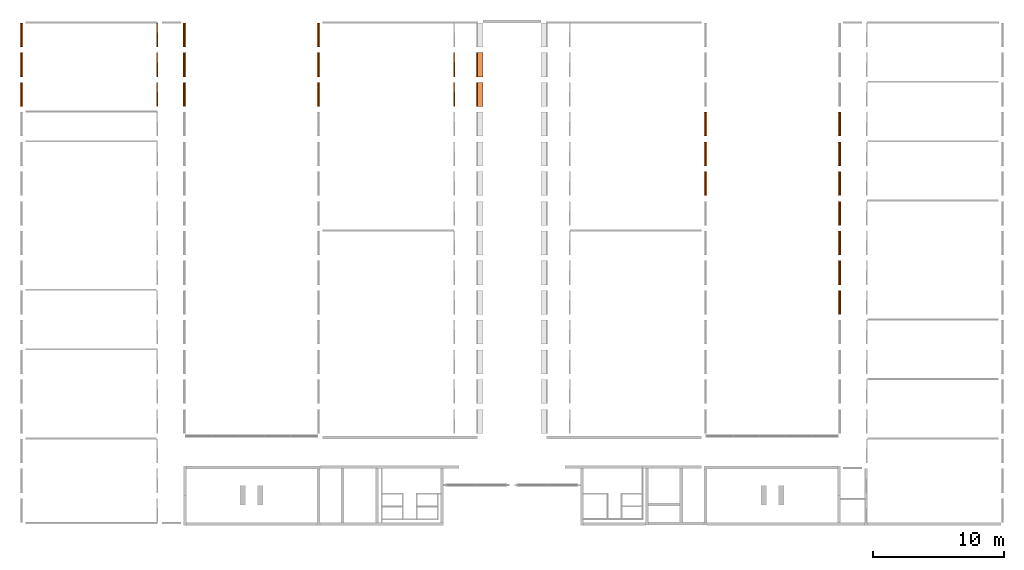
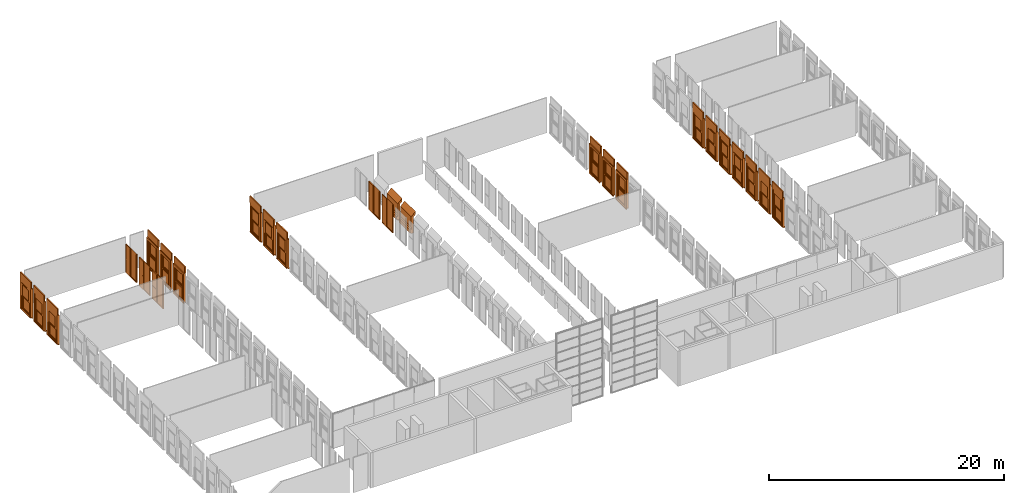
# One storey, part 14 of 16: 26 proxies.
"""IFC2X3 building model written with IfcOpenShell, lengths in millimetres."""

from ifc_helpers import new_model, entity, si_unit, converted_unit, derived_unit, direction, frame, frame_2d, origin, origin_2d_with_axis, place, context, subcontext, project, spatial, polyline, rectangle, outline, extrude, source, transform, mapped, material, material_list, type_object, type_shapes, element, save


model = new_model("IFC2X3")

# Units and contexts
model_context = context("Model", 3, precision=0.01, world=origin(), true_north=direction((6.12303176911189e-17, 1.0)))
body_context = subcontext(model_context, "Body", "Model", "MODEL_VIEW")
ifc_project = project(units=[si_unit("LENGTHUNIT", "METRE", prefix="MILLI"), si_unit("AREAUNIT", "SQUARE_METRE"), si_unit("VOLUMEUNIT", "CUBIC_METRE"), converted_unit("PLANEANGLEUNIT", "DEGREE", entity("IfcRatioMeasure", 0.0174532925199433), si_unit("PLANEANGLEUNIT", "RADIAN"), dimensions=[0, 0, 0, 0, 0, 0, 0]), si_unit("MASSUNIT", "GRAM", prefix="KILO"), derived_unit("MASSDENSITYUNIT", [(si_unit("MASSUNIT", "GRAM", prefix="KILO"), 1), (si_unit("LENGTHUNIT", "METRE"), -3)]), derived_unit("MOMENTOFINERTIAUNIT", [(si_unit("LENGTHUNIT", "METRE"), 4)]), si_unit("TIMEUNIT", "SECOND"), si_unit("FREQUENCYUNIT", "HERTZ"), si_unit("THERMODYNAMICTEMPERATUREUNIT", "DEGREE_CELSIUS"), derived_unit("THERMALTRANSMITTANCEUNIT", [(si_unit("MASSUNIT", "GRAM", prefix="KILO"), 1), (si_unit("THERMODYNAMICTEMPERATUREUNIT", "KELVIN"), -1), (si_unit("TIMEUNIT", "SECOND"), -3)]), derived_unit("VOLUMETRICFLOWRATEUNIT", [(si_unit("LENGTHUNIT", "METRE"), 3), (si_unit("TIMEUNIT", "SECOND"), -1)]), si_unit("ELECTRICCURRENTUNIT", "AMPERE"), si_unit("ELECTRICVOLTAGEUNIT", "VOLT"), si_unit("POWERUNIT", "WATT"), si_unit("FORCEUNIT", "NEWTON", prefix="KILO"), si_unit("ILLUMINANCEUNIT", "LUX"), si_unit("LUMINOUSFLUXUNIT", "LUMEN"), si_unit("LUMINOUSINTENSITYUNIT", "CANDELA"), derived_unit("USERDEFINED", [(si_unit("MASSUNIT", "GRAM", prefix="KILO"), -1), (si_unit("LENGTHUNIT", "METRE"), -2), (si_unit("TIMEUNIT", "SECOND"), 3), (si_unit("LUMINOUSFLUXUNIT", "LUMEN"), 1)]), derived_unit("LINEARVELOCITYUNIT", [(si_unit("LENGTHUNIT", "METRE"), 1), (si_unit("TIMEUNIT", "SECOND"), -1)]), si_unit("PRESSUREUNIT", "PASCAL"), derived_unit("USERDEFINED", [(si_unit("LENGTHUNIT", "METRE"), -2), (si_unit("MASSUNIT", "GRAM", prefix="KILO"), 1), (si_unit("TIMEUNIT", "SECOND"), -2)]), derived_unit("LINEARFORCEUNIT", [(si_unit("MASSUNIT", "GRAM", prefix="KILO"), 1), (si_unit("LENGTHUNIT", "METRE"), 1), (si_unit("TIMEUNIT", "SECOND"), -2), (si_unit("LENGTHUNIT", "METRE"), -1)]), derived_unit("PLANARFORCEUNIT", [(si_unit("MASSUNIT", "GRAM", prefix="KILO"), 1), (si_unit("LENGTHUNIT", "METRE"), 1), (si_unit("TIMEUNIT", "SECOND"), -2), (si_unit("LENGTHUNIT", "METRE"), -2)])], contexts=[model_context])

# Site, building, storey
site_placement = place(None, frame((10627.5135316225, 21939.0796949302, 0.0)))
site = spatial("IfcSite", under=ifc_project, at=site_placement, Name="Default", CompositionType="ELEMENT")
building_placement = place(site_placement, origin())
building = spatial("IfcBuilding", under=site, at=building_placement, CompositionType="ELEMENT")
storey_placement = place(building_placement, frame((0.0, 0.0, 3660.0)))
storey = spatial("IfcBuildingStorey", under=building, at=storey_placement, Name="R+1", CompositionType="ELEMENT", Elevation=3660.0)

# Proxies
ifc_material_1 = material(Name="PVC, Flexible")
ifc_material_2 = material(Name="Glass")
ifc_material_list_1 = material_list([ifc_material_1, ifc_material_2])
building_element_proxy_type_1 = type_object("IfcBuildingElementProxyType", Name="FENETRE.dwg:Fenetre ext 296+70", PredefinedType="NOTDEFINED", material=ifc_material_1)
shared_shape_1 = source(origin(), body_context, "Body", "SweptSolid", [
    extrude(rectangle(XDim=1829.99999999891, YDim=112.500043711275, at=origin_2d_with_axis()), frame((-10.4189092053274, 56.2500218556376, 2960.0), z_axis=(0.0, 0.0, 1.0), x_axis=(-1.0, 0.0, 0.0)), (0.0, 0.0, 1.0), 700.0),
    extrude(outline(polyline([(-68.5678005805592, -14.3879872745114), (-72.4883397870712, -33.9999574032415), (-67.5853472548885, -34.9800922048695), (-63.9024543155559, -16.5569155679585), (44.3087537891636, -16.5569155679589), (54.1101018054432, 32.4730097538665), (40.6268723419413, 35.1683804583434), (40.1368049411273, 32.7168841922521), (51.168538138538, 30.5115808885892), (42.1928709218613, -14.3879872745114), (-68.5678005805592, -14.3879872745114)])), frame((-925.418909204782, 66.917049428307, -47.5499763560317), z_axis=(-1.0, 0.0, 0.0), x_axis=(0.0, 0.980598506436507, -0.196026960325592)), (0.0, 0.0, -1.0), 1829.99999999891),
    extrude(outline(polyline([(-64.667066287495, -56.2500218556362), (66.1666874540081, -56.2500218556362), (66.1666874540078, 56.2500218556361), (-67.6663086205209, 56.2500218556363), (-64.667066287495, -56.2500218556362)])), frame((-925.418909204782, -56.2500218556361, -63.833312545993), z_axis=(1.0, 0.0, 0.0), x_axis=(0.0, 0.0, -1.0)), (0.0, 0.0, 1.0), 1829.99999999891),
    extrude(outline(polyline([(-55.5555555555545, 97.0007159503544), (-55.5555555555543, -5.85738417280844), (-55.5555555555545, -95.357341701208), (-45.5555555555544, -95.3573417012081), (-45.5555555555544, -105.357341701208), (174.444444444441, -105.357341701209), (174.444444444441, 106.642659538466), (-45.5555555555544, 106.642659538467), (-45.5555555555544, 97.0007159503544), (-55.5555555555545, 97.0007159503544)])), frame((849.025535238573, 5.85738417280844, 0.0), z_axis=(0.0, 0.0, -1.0), x_axis=(-1.0, 0.0, 0.0)), (0.0, 0.0, -1.0), 2960.0),
    extrude(rectangle(XDim=199.499957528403, YDim=1369.99999999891, at=origin_2d_with_axis()), frame((-10.4189092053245, 0.250021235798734, 2730.0), z_axis=(0.0, 0.0, 1.0), x_axis=(0.0, 1.0, 0.0)), (0.0, 0.0, 1.0), 230.000000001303),
    extrude(outline(polyline([(-97.0007159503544, -55.5555555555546), (5.85738417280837, -55.5555555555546), (95.357341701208, -55.5555555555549), (95.357341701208, -45.5555555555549), (105.357341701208, -45.5555555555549), (105.357341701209, 174.44444444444), (-106.642659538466, 174.444444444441), (-106.642659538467, -45.5555555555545), (-97.0007159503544, -45.5555555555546), (-97.0007159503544, -55.5555555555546)])), frame((-869.863353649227, 5.85738417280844, 0.0), z_axis=(0.0, 0.0, 1.0), x_axis=(0.0, -1.0, 0.0)), (0.0, 0.0, 1.0), 2960.0),
    extrude(rectangle(XDim=1.0, YDim=1079.99999999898, at=origin_2d_with_axis()), frame((-10.4189092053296, -19.5, 130.0), z_axis=(0.0, 0.0, 1.0), x_axis=(0.0, 1.0, 0.0)), (0.0, 0.0, 1.0), 1120.00000000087),
    extrude(rectangle(XDim=1.0, YDim=1079.99999999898, at=frame_2d((-4.21884749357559e-15, 0.0), x_axis=(1.0, 0.0))), frame((-10.4189092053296, -30.5, 130.0), z_axis=(0.0, 0.0, 1.0), x_axis=(0.0, 1.0, 0.0)), (0.0, 0.0, 1.0), 1120.00000000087),
    extrude(rectangle(XDim=1.0, YDim=1079.99999999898, at=frame_2d((-4.21884749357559e-15, 0.0), x_axis=(1.0, 0.0))), frame((-10.4189092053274, 69.5, 1465.0), z_axis=(0.0, 0.0, 1.0), x_axis=(0.0, 1.0, 0.0)), (0.0, 0.0, 1.0), 1120.0),
    extrude(rectangle(XDim=0.999999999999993, YDim=1079.99999999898, at=frame_2d((-8.46545056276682e-15, 0.0), x_axis=(1.0, 0.0))), frame((-10.4189092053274, 80.5, 1465.0), z_axis=(0.0, 0.0, 1.0), x_axis=(0.0, 1.0, 0.0)), (0.0, 0.0, 1.0), 1120.00000000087),
    extrude(outline(polyline([(-685.0, -1365.0), (0.0, -1365.0), (685.0, -1365.0), (685.0, 1365.0), (0.0, 1365.0), (-685.0, 1365.0), (-685.0, -1365.0)]), holes=[polyline([(-640.0, -1320.0), (-640.0, -45.0), (0.0, -45.0), (640.0, -45.0), (640.0, -1320.0), (0.0, -1320.0), (-640.0, -1320.0)]), polyline([(-640.0, 40.0), (-640.0, 1315.0), (0.0, 1315.0), (640.0, 1315.0), (640.0, 40.0), (0.0, 40.0), (-640.0, 40.0)])]), frame((-10.4189092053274, 0.0, 1365.0), z_axis=(0.0, 1.0, 0.0), x_axis=(1.0, 0.0, 0.0)), (0.0, 0.0, 1.0), 50.0),
    extrude(outline(polyline([(-655.0, -667.500000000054), (655.0, -667.500000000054), (655.0, 667.500000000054), (-655.0, 667.500000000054), (-655.0, -667.500000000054)]), holes=[polyline([(-540.0, 552.500000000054), (540.0, 552.500000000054), (540.0, -567.500000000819), (-540.0, -567.500000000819), (-540.0, 552.500000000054)])]), frame((-10.4189092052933, -50.0, 697.500000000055), z_axis=(0.0, 1.0, 0.0), x_axis=(-1.0, 0.0, 0.0)), (0.0, 0.0, 1.0), 50.0),
    extrude(outline(polyline([(-655.0, -667.500000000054), (655.0, -667.500000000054), (655.0, 667.500000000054), (-655.0, 667.500000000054), (-655.0, -667.500000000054)]), holes=[polyline([(-540.0, 552.500000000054), (540.0, 552.500000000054), (540.0, -567.500000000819), (-540.0, -567.500000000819), (-540.0, 552.500000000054)])]), frame((-10.4189092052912, 50.0, 2032.50000000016), z_axis=(0.0, 1.0, 0.0), x_axis=(-1.0, 0.0, 0.0)), (0.0, 0.0, 1.0), 50.0),
])
type_shapes(building_element_proxy_type_1, [shared_shape_1])
proxy_1_placement = place(storey_placement, frame((-10728.9017825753, 15361.3392142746, 0.0), z_axis=(0.0, 0.0, 1.0), x_axis=(0.0, 1.0, 0.0)))
element("IfcBuildingElementProxy", 1, at=proxy_1_placement, inside=storey, type_object=building_element_proxy_type_1, material=ifc_material_list_1, Name="FENETRE.dwg:Fenetre ext 296+70", ObjectType="FENETRE.dwg:Fenetre ext 296+70", context=body_context, shape_type="MappedRepresentation", body=[
    mapped(shared_shape_1, transform((0.0, 0.0, 0.0), scale=1.0)),
])
ifc_material_list_2 = material_list([ifc_material_1, ifc_material_2])
proxy_2_placement = place(storey_placement, frame((-10728.9017825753, 13101.3392142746, 0.0), z_axis=(0.0, 0.0, 1.0), x_axis=(0.0, 1.0, 0.0)))
element("IfcBuildingElementProxy", 2, at=proxy_2_placement, inside=storey, type_object=building_element_proxy_type_1, material=ifc_material_list_2, Name="FENETRE.dwg:Fenetre ext 296+70", ObjectType="FENETRE.dwg:Fenetre ext 296+70", context=body_context, shape_type="MappedRepresentation", body=[
    mapped(shared_shape_1, transform((0.0, 0.0, 0.0), scale=1.0)),
])
ifc_material_list_3 = material_list([ifc_material_1, ifc_material_2])
proxy_3_placement = place(storey_placement, frame((-10728.9017825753, 10841.3392142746, 0.0), z_axis=(0.0, 0.0, 1.0), x_axis=(0.0, 1.0, 0.0)))
element("IfcBuildingElementProxy", 3, at=proxy_3_placement, inside=storey, type_object=building_element_proxy_type_1, material=ifc_material_list_3, Name="FENETRE.dwg:Fenetre ext 296+70", ObjectType="FENETRE.dwg:Fenetre ext 296+70", context=body_context, shape_type="MappedRepresentation", body=[
    mapped(shared_shape_1, transform((0.0, 0.0, 0.0), scale=1.0)),
])
ifc_material_list_4 = material_list([ifc_material_1, ifc_material_2])
proxy_4_placement = place(storey_placement, frame((11860.9034578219, 15361.3392142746, 0.0), z_axis=(0.0, 0.0, 1.0), x_axis=(0.0, 1.0, 0.0)))
element("IfcBuildingElementProxy", 4, at=proxy_4_placement, inside=storey, type_object=building_element_proxy_type_1, material=ifc_material_list_4, Name="FENETRE.dwg:Fenetre ext 296+70", ObjectType="FENETRE.dwg:Fenetre ext 296+70", context=body_context, shape_type="MappedRepresentation", body=[
    mapped(shared_shape_1, transform((0.0, 0.0, 0.0), scale=1.0)),
])
ifc_material_list_5 = material_list([ifc_material_1, ifc_material_2])
proxy_5_placement = place(storey_placement, frame((11860.9034578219, 13101.3392142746, 0.0), z_axis=(0.0, 0.0, 1.0), x_axis=(0.0, 1.0, 0.0)))
element("IfcBuildingElementProxy", 5, at=proxy_5_placement, inside=storey, type_object=building_element_proxy_type_1, material=ifc_material_list_5, Name="FENETRE.dwg:Fenetre ext 296+70", ObjectType="FENETRE.dwg:Fenetre ext 296+70", context=body_context, shape_type="MappedRepresentation", body=[
    mapped(shared_shape_1, transform((0.0, 0.0, 0.0), scale=1.0)),
])
ifc_material_list_6 = material_list([ifc_material_1, ifc_material_2])
proxy_6_placement = place(storey_placement, frame((11860.9034578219, 10841.3392142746, 0.0), z_axis=(0.0, 0.0, 1.0), x_axis=(0.0, 1.0, 0.0)))
element("IfcBuildingElementProxy", 6, at=proxy_6_placement, inside=storey, type_object=building_element_proxy_type_1, material=ifc_material_list_6, Name="FENETRE.dwg:Fenetre ext 296+70", ObjectType="FENETRE.dwg:Fenetre ext 296+70", context=body_context, shape_type="MappedRepresentation", body=[
    mapped(shared_shape_1, transform((0.0, 0.0, 0.0), scale=1.0)),
])
ifc_material_list_7 = material_list([ifc_material_1, ifc_material_2])
proxy_7_placement = place(storey_placement, frame((51469.9865120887, 8581.33921427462, 0.0), z_axis=(0.0, 0.0, 1.0), x_axis=(0.0, 1.0, 0.0)))
element("IfcBuildingElementProxy", 7, at=proxy_7_placement, inside=storey, type_object=building_element_proxy_type_1, material=ifc_material_list_7, Name="FENETRE.dwg:Fenetre ext 296+70", ObjectType="FENETRE.dwg:Fenetre ext 296+70", context=body_context, shape_type="MappedRepresentation", body=[
    mapped(shared_shape_1, transform((0.0, 0.0, 0.0), scale=1.0)),
])
ifc_material_list_8 = material_list([ifc_material_1, ifc_material_2])
proxy_8_placement = place(storey_placement, frame((51469.9865120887, 6321.33921427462, 0.0), z_axis=(0.0, 0.0, 1.0), x_axis=(0.0, 1.0, 0.0)))
element("IfcBuildingElementProxy", 8, at=proxy_8_placement, inside=storey, type_object=building_element_proxy_type_1, material=ifc_material_list_8, Name="FENETRE.dwg:Fenetre ext 296+70", ObjectType="FENETRE.dwg:Fenetre ext 296+70", context=body_context, shape_type="MappedRepresentation", body=[
    mapped(shared_shape_1, transform((0.0, 0.0, 0.0), scale=1.0)),
])
ifc_material_list_9 = material_list([ifc_material_1, ifc_material_2])
proxy_9_placement = place(storey_placement, frame((51469.9865120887, 4061.33921427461, 0.0), z_axis=(0.0, 0.0, 1.0), x_axis=(0.0, 1.0, 0.0)))
element("IfcBuildingElementProxy", 9, at=proxy_9_placement, inside=storey, type_object=building_element_proxy_type_1, material=ifc_material_list_9, Name="FENETRE.dwg:Fenetre ext 296+70", ObjectType="FENETRE.dwg:Fenetre ext 296+70", context=body_context, shape_type="MappedRepresentation", body=[
    mapped(shared_shape_1, transform((0.0, 0.0, 0.0), scale=1.0)),
])
ifc_material_list_10 = material_list([ifc_material_1, ifc_material_2])
proxy_10_placement = place(storey_placement, frame((51469.9865120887, 1801.33921427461, 0.0), z_axis=(0.0, 0.0, 1.0), x_axis=(0.0, 1.0, 0.0)))
element("IfcBuildingElementProxy", 10, at=proxy_10_placement, inside=storey, type_object=building_element_proxy_type_1, material=ifc_material_list_10, Name="FENETRE.dwg:Fenetre ext 296+70", ObjectType="FENETRE.dwg:Fenetre ext 296+70", context=body_context, shape_type="MappedRepresentation", body=[
    mapped(shared_shape_1, transform((0.0, 0.0, 0.0), scale=1.0)),
])
ifc_material_list_11 = material_list([ifc_material_1, ifc_material_2])
proxy_11_placement = place(storey_placement, frame((51469.9865120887, -458.660785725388, 0.0), z_axis=(0.0, 0.0, 1.0), x_axis=(0.0, 1.0, 0.0)))
element("IfcBuildingElementProxy", 11, at=proxy_11_placement, inside=storey, type_object=building_element_proxy_type_1, material=ifc_material_list_11, Name="FENETRE.dwg:Fenetre ext 296+70", ObjectType="FENETRE.dwg:Fenetre ext 296+70", context=body_context, shape_type="MappedRepresentation", body=[
    mapped(shared_shape_1, transform((0.0, 0.0, 0.0), scale=1.0)),
])
ifc_material_list_12 = material_list([ifc_material_1, ifc_material_2])
proxy_12_placement = place(storey_placement, frame((51469.9865120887, -2718.66078572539, 0.0), z_axis=(0.0, 0.0, 1.0), x_axis=(0.0, 1.0, 0.0)))
element("IfcBuildingElementProxy", 12, at=proxy_12_placement, inside=storey, type_object=building_element_proxy_type_1, material=ifc_material_list_12, Name="FENETRE.dwg:Fenetre ext 296+70", ObjectType="FENETRE.dwg:Fenetre ext 296+70", context=body_context, shape_type="MappedRepresentation", body=[
    mapped(shared_shape_1, transform((0.0, 0.0, 0.0), scale=1.0)),
])
ifc_material_list_13 = material_list([ifc_material_1, ifc_material_2])
proxy_13_placement = place(storey_placement, frame((51469.9865120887, -4978.66078572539, 0.0), z_axis=(0.0, 0.0, 1.0), x_axis=(0.0, 1.0, 0.0)))
element("IfcBuildingElementProxy", 13, at=proxy_13_placement, inside=storey, type_object=building_element_proxy_type_1, material=ifc_material_list_13, Name="FENETRE.dwg:Fenetre ext 296+70", ObjectType="FENETRE.dwg:Fenetre ext 296+70", context=body_context, shape_type="MappedRepresentation", body=[
    mapped(shared_shape_1, transform((0.0, 0.0, 0.0), scale=1.0)),
])
ifc_material_list_14 = material_list([ifc_material_1, ifc_material_2])
building_element_proxy_type_2 = type_object("IfcBuildingElementProxyType", Name="FENETRE.dwg:Fenetre ext 296+70", PredefinedType="NOTDEFINED", material=ifc_material_1)
shared_shape_2 = source(origin(), body_context, "Body", "SweptSolid", [
    extrude(rectangle(XDim=112.500043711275, YDim=1829.99999999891, at=origin_2d_with_axis()), frame((-10.4189092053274, -56.2500218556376, 2960.0), z_axis=(0.0, 0.0, 1.0), x_axis=(0.0, 1.0, 0.0)), (0.0, 0.0, 1.0), 700.0),
    extrude(outline(polyline([(27.5499763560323, -64.4170494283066), (47.5499763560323, -64.4170494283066), (47.5499763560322, -59.4170494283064), (28.7622905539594, -59.4170494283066), (7.54997635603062, 46.6946996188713), (-42.4500236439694, 46.6946996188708), (-42.4500236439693, 32.9446996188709), (-39.9500236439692, 32.9446996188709), (-39.9500236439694, 44.1946996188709), (5.83789859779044, 44.1946996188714), (27.5499763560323, -64.4170494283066)])), frame((-925.418909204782, -66.917049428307, -47.5499763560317), z_axis=(1.0, 0.0, 0.0), x_axis=(0.0, 0.0, 1.0)), (0.0, 0.0, 1.0), 1829.99999999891),
    extrude(outline(polyline([(-54.506636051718, -66.1431859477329), (58.0333803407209, -66.1431859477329), (54.4666704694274, 67.6422744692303), (-57.9934147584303, 64.6440974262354), (-54.506636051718, -66.1431859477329)])), frame((-925.418909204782, 56.2500218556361, -63.833312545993), z_axis=(1.0, 0.0, 0.0), x_axis=(0.0, -0.999644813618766, 0.0266504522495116)), (0.0, 0.0, 1.0), 1829.99999999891),
    extrude(outline(polyline([(-97.0007159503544, -55.5555555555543), (5.85738417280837, -55.5555555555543), (95.357341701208, -55.5555555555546), (95.357341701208, -45.5555555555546), (105.357341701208, -45.5555555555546), (105.357341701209, 174.444444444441), (-106.642659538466, 174.444444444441), (-106.642659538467, -45.5555555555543), (-97.0007159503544, -45.5555555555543), (-97.0007159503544, -55.5555555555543)])), frame((849.025535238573, -5.85738417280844, 0.0), z_axis=(0.0, 0.0, 1.0), x_axis=(0.0, 1.0, 0.0)), (0.0, 0.0, 1.0), 2960.0),
    extrude(rectangle(XDim=1369.99999999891, YDim=199.499957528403, at=origin_2d_with_axis()), frame((-10.4189092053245, -0.250021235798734, 2730.0), z_axis=(0.0, 0.0, 1.0), x_axis=(-1.0, 0.0, 0.0)), (0.0, 0.0, 1.0), 230.000000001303),
    extrude(outline(polyline([(-55.5555555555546, 97.0007159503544), (-55.5555555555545, -5.85738417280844), (-55.5555555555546, -95.357341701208), (-45.5555555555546, -95.3573417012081), (-45.5555555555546, -105.357341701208), (174.444444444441, -105.357341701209), (174.444444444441, 106.642659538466), (-45.5555555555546, 106.642659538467), (-45.5555555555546, 97.0007159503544), (-55.5555555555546, 97.0007159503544)])), frame((-869.863353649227, -5.85738417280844, 0.0), z_axis=(0.0, 0.0, -1.0), x_axis=(1.0, 0.0, 0.0)), (0.0, 0.0, -1.0), 2960.0),
    extrude(rectangle(XDim=1079.99999999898, YDim=1.0, at=origin_2d_with_axis()), frame((-10.4189092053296, 19.5, 130.0), z_axis=(0.0, 0.0, 1.0), x_axis=(-1.0, 0.0, 0.0)), (0.0, 0.0, 1.0), 1120.00000000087),
    extrude(rectangle(XDim=1079.99999999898, YDim=1.0, at=origin_2d_with_axis()), frame((-10.4189092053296, 30.5, 130.0), z_axis=(0.0, 0.0, 1.0), x_axis=(-1.0, 0.0, 0.0)), (0.0, 0.0, 1.0), 1120.00000000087),
    extrude(rectangle(XDim=1079.99999999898, YDim=1.0, at=frame_2d((0.0, 4.21884749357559e-15), x_axis=(1.0, 0.0))), frame((-10.4189092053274, -69.5, 1465.0), z_axis=(0.0, 0.0, 1.0), x_axis=(-1.0, 0.0, 0.0)), (0.0, 0.0, 1.0), 1120.0),
    extrude(rectangle(XDim=1079.99999999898, YDim=0.999999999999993, at=frame_2d((0.0, -8.46545056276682e-15), x_axis=(1.0, 0.0))), frame((-10.4189092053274, -80.5, 1465.0), z_axis=(0.0, 0.0, 1.0), x_axis=(-1.0, 0.0, 0.0)), (0.0, 0.0, 1.0), 1120.00000000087),
    extrude(outline(polyline([(-685.0, -1365.0), (0.0, -1365.0), (685.0, -1365.0), (685.0, 1365.0), (0.0, 1365.0), (-685.0, 1365.0), (-685.0, -1365.0)]), holes=[polyline([(-640.0, -1320.0), (-640.0, -45.0), (0.0, -45.0), (640.0, -45.0), (640.0, -1320.0), (0.0, -1320.0), (-640.0, -1320.0)]), polyline([(-640.0, 40.0), (-640.0, 1315.0), (0.0, 1315.0), (640.0, 1315.0), (640.0, 40.0), (0.0, 40.0), (-640.0, 40.0)])]), frame((-10.4189092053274, -50.0, 1365.0), z_axis=(0.0, 1.0, 0.0), x_axis=(1.0, 0.0, 0.0)), (0.0, 0.0, 1.0), 50.0),
    extrude(outline(polyline([(-655.0, -667.500000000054), (655.0, -667.500000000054), (655.0, 667.500000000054), (-655.0, 667.500000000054), (-655.0, -667.500000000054)]), holes=[polyline([(-540.0, 552.500000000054), (540.0, 552.500000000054), (540.0, -567.500000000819), (-540.0, -567.500000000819), (-540.0, 552.500000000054)])]), frame((-10.4189092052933, 0.0, 697.500000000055), z_axis=(0.0, 1.0, 0.0), x_axis=(-1.0, 0.0, 0.0)), (0.0, 0.0, 1.0), 50.0),
    extrude(outline(polyline([(-655.0, -667.500000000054), (655.0, -667.500000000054), (655.0, 667.500000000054), (-655.0, 667.500000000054), (-655.0, -667.500000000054)]), holes=[polyline([(-540.0, 552.500000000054), (540.0, 552.500000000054), (540.0, -567.500000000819), (-540.0, -567.500000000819), (-540.0, 552.500000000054)])]), frame((-10.4189092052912, -100.0, 2032.50000000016), z_axis=(0.0, 1.0, 0.0), x_axis=(-1.0, 0.0, 0.0)), (0.0, 0.0, 1.0), 50.0),
])
type_shapes(building_element_proxy_type_2, [shared_shape_2])
proxy_14_placement = place(storey_placement, frame((1684.98642466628, 15361.3392142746, 0.0), z_axis=(0.0, 0.0, 1.0), x_axis=(0.0, 1.0, 0.0)))
element("IfcBuildingElementProxy", 14, at=proxy_14_placement, inside=storey, type_object=building_element_proxy_type_2, material=ifc_material_list_14, Name="FENETRE.dwg:Fenetre ext 296+70", ObjectType="FENETRE.dwg:Fenetre ext 296+70", context=body_context, shape_type="MappedRepresentation", body=[
    mapped(shared_shape_2, transform((0.0, 0.0, 0.0), scale=1.0)),
])
ifc_material_list_15 = material_list([ifc_material_1, ifc_material_2])
proxy_15_placement = place(storey_placement, frame((1684.98642466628, 13101.3392142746, 0.0), z_axis=(0.0, 0.0, 1.0), x_axis=(0.0, 1.0, 0.0)))
element("IfcBuildingElementProxy", 15, at=proxy_15_placement, inside=storey, type_object=building_element_proxy_type_2, material=ifc_material_list_15, Name="FENETRE.dwg:Fenetre ext 296+70", ObjectType="FENETRE.dwg:Fenetre ext 296+70", context=body_context, shape_type="MappedRepresentation", body=[
    mapped(shared_shape_2, transform((0.0, 0.0, 0.0), scale=1.0)),
])
ifc_material_list_16 = material_list([ifc_material_1, ifc_material_2])
proxy_16_placement = place(storey_placement, frame((1684.98642466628, 10841.3392142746, 0.0), z_axis=(0.0, 0.0, 1.0), x_axis=(0.0, 1.0, 0.0)))
element("IfcBuildingElementProxy", 16, at=proxy_16_placement, inside=storey, type_object=building_element_proxy_type_2, material=ifc_material_list_16, Name="FENETRE.dwg:Fenetre ext 296+70", ObjectType="FENETRE.dwg:Fenetre ext 296+70", context=body_context, shape_type="MappedRepresentation", body=[
    mapped(shared_shape_2, transform((0.0, 0.0, 0.0), scale=1.0)),
])
ifc_material_list_17 = material_list([ifc_material_1, ifc_material_2])
proxy_17_placement = place(storey_placement, frame((41294.0694789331, 8581.33921427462, 0.0), z_axis=(0.0, 0.0, 1.0), x_axis=(0.0, 1.0, 0.0)))
element("IfcBuildingElementProxy", 17, at=proxy_17_placement, inside=storey, type_object=building_element_proxy_type_2, material=ifc_material_list_17, Name="FENETRE.dwg:Fenetre ext 296+70", ObjectType="FENETRE.dwg:Fenetre ext 296+70", context=body_context, shape_type="MappedRepresentation", body=[
    mapped(shared_shape_2, transform((0.0, 0.0, 0.0), scale=1.0)),
])
ifc_material_list_18 = material_list([ifc_material_1, ifc_material_2])
proxy_18_placement = place(storey_placement, frame((41294.0694789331, 6321.33921427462, 0.0), z_axis=(0.0, 0.0, 1.0), x_axis=(0.0, 1.0, 0.0)))
element("IfcBuildingElementProxy", 18, at=proxy_18_placement, inside=storey, type_object=building_element_proxy_type_2, material=ifc_material_list_18, Name="FENETRE.dwg:Fenetre ext 296+70", ObjectType="FENETRE.dwg:Fenetre ext 296+70", context=body_context, shape_type="MappedRepresentation", body=[
    mapped(shared_shape_2, transform((0.0, 0.0, 0.0), scale=1.0)),
])
ifc_material_list_19 = material_list([ifc_material_1, ifc_material_2])
proxy_19_placement = place(storey_placement, frame((41294.0694789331, 4061.33921427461, 0.0), z_axis=(0.0, 0.0, 1.0), x_axis=(0.0, 1.0, 0.0)))
element("IfcBuildingElementProxy", 19, at=proxy_19_placement, inside=storey, type_object=building_element_proxy_type_2, material=ifc_material_list_19, Name="FENETRE.dwg:Fenetre ext 296+70", ObjectType="FENETRE.dwg:Fenetre ext 296+70", context=body_context, shape_type="MappedRepresentation", body=[
    mapped(shared_shape_2, transform((0.0, 0.0, 0.0), scale=1.0)),
])
ifc_material_3 = material(Name="Plywood, Sheathing")
ifc_material_list_20 = material_list([ifc_material_3, ifc_material_2])
building_element_proxy_type_3 = type_object("IfcBuildingElementProxyType", Name="Porte noire:Porte noire", PredefinedType="NOTDEFINED", material=ifc_material_3)
shared_shape_3 = source(origin(), body_context, "Body", "SweptSolid", [
    extrude(rectangle(XDim=100.0, YDim=23.0000000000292, at=origin_2d_with_axis()), frame((-950.918997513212, -50.0, 8.73189890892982), z_axis=(0.0, 0.0, 1.0), x_axis=(0.0, 1.0, 0.0)), (0.0, 0.0, 1.0), 2933.34951039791),
    extrude(rectangle(XDim=19.0, YDim=1038.0, at=frame_2d((7.99360577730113e-15, 0.0), x_axis=(1.0, 0.0))), frame((-420.418997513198, -87.5, 43.7318989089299), z_axis=(0.0, 0.0, 1.0), x_axis=(0.0, 1.0, 0.0)), (0.0, 0.0, 1.0), 2898.5),
    extrude(rectangle(XDim=100.0, YDim=1775.0, at=origin_2d_with_axis()), frame((-51.9189975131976, -50.0, 8.73189890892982), z_axis=(0.0, 0.0, 1.0), x_axis=(0.0, 1.0, 0.0)), (0.0, 0.0, 1.0), 35.0000000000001),
    extrude(rectangle(XDim=100.0, YDim=35.0000000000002, at=origin_2d_with_axis()), frame((853.081002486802, -50.0, 8.73189890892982), z_axis=(0.0, 0.0, 1.0), x_axis=(0.0, 1.0, 0.0)), (0.0, 0.0, 1.0), 2898.5),
    extrude(rectangle(XDim=100.0, YDim=740.0, at=origin_2d_with_axis()), frame((500.581002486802, -50.0, 2907.23189890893), z_axis=(0.0, 0.0, 1.0), x_axis=(0.0, 1.0, 0.0)), (0.0, 0.0, 1.0), 35.0000000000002),
    extrude(rectangle(XDim=100.0, YDim=31.9999999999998, at=origin_2d_with_axis()), frame((114.581002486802, -50.0, 43.7318989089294), z_axis=(0.0, 0.0, 1.0), x_axis=(0.0, 1.0, 0.0)), (0.0, 0.0, 1.0), 2898.5),
    extrude(rectangle(XDim=100.0, YDim=705.0, at=origin_2d_with_axis()), frame((483.081002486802, -50.0, 1343.73189890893), z_axis=(0.0, 0.0, 1.0), x_axis=(0.0, 1.0, 0.0)), (0.0, 0.0, 1.0), 55.0),
    extrude(outline(polyline([(-352.5, -650.0), (352.5, -650.0), (352.5, 650.0), (-352.5, 650.0), (-352.5, -650.0)]), holes=[polyline([(342.5, 640.0), (342.5, -640.0), (-342.5, -640.0), (-342.5, 640.0), (342.5, 640.0)])]), frame((483.081002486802, -80.0, 693.73189890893), z_axis=(0.0, 1.0, 0.0), x_axis=(1.0, 0.0, 0.0)), (0.0, 0.0, 1.0), 70.0),
    extrude(outline(polyline([(-754.25, -352.5), (754.25, -352.5), (754.25, 352.5), (-754.25, 352.5), (-754.25, -352.5)]), holes=[polyline([(744.25, 342.5), (744.25, -342.5), (-744.25, -342.5), (-744.25, 342.5), (744.25, 342.5)])]), frame((483.081002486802, -80.0, 2152.98189890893), z_axis=(0.0, 1.0, 0.0), x_axis=(0.0, 0.0, 1.0)), (0.0, 0.0, 1.0), 70.0),
    extrude(outline(polyline([(-640.0, -342.5), (640.0, -342.5), (640.0, 342.5), (-640.0, 342.5), (-640.0, -342.5)]), holes=[polyline([(630.0, 332.5), (630.0, -332.5), (-630.0, -332.5), (-630.0, 332.5), (630.0, 332.5)])]), frame((483.081002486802, -81.0, 693.731898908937), z_axis=(0.0, 1.0, 0.0), x_axis=(0.0, 0.0, 1.0)), (0.0, 0.0, 1.0), 3.99999999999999),
    extrude(outline(polyline([(-744.25, -342.5), (744.25, -342.5), (744.25, 342.5), (-744.25, 342.5), (-744.25, -342.5)]), holes=[polyline([(734.25, 332.5), (734.25, -332.5), (-734.25, -332.5), (-734.25, 332.5), (734.25, 332.5)])]), frame((483.081002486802, -81.0, 2152.98189890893), z_axis=(0.0, 1.0, 0.0), x_axis=(0.0, 0.0, 1.0)), (0.0, 0.0, 1.0), 3.99999999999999),
    extrude(outline(polyline([(-640.0, -342.5), (640.0, -342.5), (640.0, 342.5), (-640.0, 342.5), (-640.0, -342.5)]), holes=[polyline([(630.0, 332.5), (630.0, -332.5), (-630.0, -332.5), (-630.0, 332.5), (630.0, 332.5)])]), frame((483.081002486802, -15.0, 693.782575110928), z_axis=(0.0, 1.0, 0.0), x_axis=(0.0, 0.0, 1.0)), (0.0, 0.0, 1.0), 5.0),
    extrude(outline(polyline([(-744.25, -342.5), (744.25, -342.5), (744.25, 342.5), (-744.25, 342.5), (-744.25, -342.5)]), holes=[polyline([(734.25, 332.5), (734.25, -332.5), (-734.25, -332.5), (-734.25, 332.5), (734.25, 332.5)])]), frame((483.081002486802, -15.0, 2153.03257511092), z_axis=(0.0, 1.0, 0.0), x_axis=(0.0, 0.0, 1.0)), (0.0, 0.0, 1.0), 5.0),
    extrude(rectangle(XDim=2.0, YDim=665.0, at=frame_2d((8.43769498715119e-15, 0.0), x_axis=(1.0, 0.0))), frame((483.081002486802, -79.0, 1418.73189890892), z_axis=(0.0, 0.0, 1.0), x_axis=(0.0, 1.0, 0.0)), (0.0, 0.0, 1.0), 1468.50000000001),
    extrude(rectangle(XDim=2.0, YDim=665.0, at=frame_2d((8.43769498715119e-15, 0.0), x_axis=(1.0, 0.0))), frame((483.081002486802, -79.0, 63.7318989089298), z_axis=(0.0, 0.0, 1.0), x_axis=(0.0, 1.0, 0.0)), (0.0, 0.0, 1.0), 1260.0),
    extrude(rectangle(XDim=2.0, YDim=665.0, at=frame_2d((1.0547118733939e-15, 0.0), x_axis=(1.0, 0.0))), frame((483.081002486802, -13.0, 1418.78257511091), z_axis=(0.0, 0.0, 1.0), x_axis=(0.0, 1.0, 0.0)), (0.0, 0.0, 1.0), 1468.50000000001),
    extrude(rectangle(XDim=2.0, YDim=665.0, at=frame_2d((1.0547118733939e-15, 0.0), x_axis=(1.0, 0.0))), frame((483.081002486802, -13.0, 63.7825751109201), z_axis=(0.0, 0.0, 1.0), x_axis=(0.0, 1.0, 0.0)), (0.0, 0.0, 1.0), 1260.0),
])
type_shapes(building_element_proxy_type_3, [shared_shape_3])
proxy_20_placement = place(storey_placement, frame((-462.153535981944, 10877.339302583, 0.0), z_axis=(0.0, 0.0, 1.0), x_axis=(0.0, 1.0, 0.0)))
element("IfcBuildingElementProxy", 20, at=proxy_20_placement, inside=storey, type_object=building_element_proxy_type_3, material=ifc_material_list_20, Name="Porte noire:Porte noire", ObjectType="Porte noire:Porte noire", context=body_context, shape_type="MappedRepresentation", body=[
    mapped(shared_shape_3, transform((0.0, 0.0, 0.0), scale=1.0)),
])
ifc_material_list_21 = material_list([ifc_material_3, ifc_material_2])
proxy_21_placement = place(storey_placement, frame((-462.153535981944, 13137.339302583, 0.0), z_axis=(0.0, 0.0, 1.0), x_axis=(0.0, 1.0, 0.0)))
element("IfcBuildingElementProxy", 21, at=proxy_21_placement, inside=storey, type_object=building_element_proxy_type_3, material=ifc_material_list_21, Name="Porte noire:Porte noire", ObjectType="Porte noire:Porte noire", context=body_context, shape_type="MappedRepresentation", body=[
    mapped(shared_shape_3, transform((0.0, 0.0, 0.0), scale=1.0)),
])
ifc_material_list_22 = material_list([ifc_material_3, ifc_material_2])
proxy_22_placement = place(storey_placement, frame((-462.153535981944, 15397.339302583, 0.0), z_axis=(0.0, 0.0, 1.0), x_axis=(0.0, 1.0, 0.0)))
element("IfcBuildingElementProxy", 22, at=proxy_22_placement, inside=storey, type_object=building_element_proxy_type_3, material=ifc_material_list_22, Name="Porte noire:Porte noire", ObjectType="Porte noire:Porte noire", context=body_context, shape_type="MappedRepresentation", body=[
    mapped(shared_shape_3, transform((0.0, 0.0, 0.0), scale=1.0)),
])
ifc_material_list_23 = material_list([ifc_material_3, ifc_material_2])
proxy_23_placement = place(storey_placement, frame((22127.8464640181, 10877.3393025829, 0.0), z_axis=(0.0, 0.0, 1.0), x_axis=(0.0, 1.0, 0.0)))
element("IfcBuildingElementProxy", 23, at=proxy_23_placement, inside=storey, type_object=building_element_proxy_type_3, material=ifc_material_list_23, Name="Porte noire:Porte noire", ObjectType="Porte noire:Porte noire", context=body_context, shape_type="MappedRepresentation", body=[
    mapped(shared_shape_3, transform((0.0, 0.0, 0.0), scale=1.0)),
])
ifc_material_list_24 = material_list([ifc_material_3, ifc_material_2])
proxy_24_placement = place(storey_placement, frame((22127.8464640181, 13137.3393025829, 0.0), z_axis=(0.0, 0.0, 1.0), x_axis=(0.0, 1.0, 0.0)))
element("IfcBuildingElementProxy", 24, at=proxy_24_placement, inside=storey, type_object=building_element_proxy_type_3, material=ifc_material_list_24, Name="Porte noire:Porte noire", ObjectType="Porte noire:Porte noire", context=body_context, shape_type="MappedRepresentation", body=[
    mapped(shared_shape_3, transform((0.0, 0.0, 0.0), scale=1.0)),
])
ifc_material_4 = material(Name="Concrete, Precast Smooth, Light Grey")
building_element_proxy_type_4 = type_object("IfcBuildingElementProxyType", Name="Panneaux mediateque:Panneaux mediateque", PredefinedType="NOTDEFINED", material=ifc_material_4)
shared_shape_4 = source(origin(), body_context, "Body", "SweptSolid", [
    extrude(outline(polyline([(-998.434688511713, -508.899393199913), (-1213.39514999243, -723.859854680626), (-605.283318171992, -723.859854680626), (115.965598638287, -2.61093787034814), (101.823463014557, 11.5311977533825), (296.277827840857, 205.985562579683), (310.419963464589, 191.843426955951), (395.272229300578, 106.991161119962), (639.224068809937, 350.943000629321), (554.371802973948, 435.79526646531), (625.082466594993, 506.505930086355), (473.054508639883, 658.533888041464), (-694.378772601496, -508.899393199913), (-998.434688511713, -508.899393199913)])), frame((0.0, -203.845498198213, 800.153828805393), z_axis=(-1.0, 0.0, 0.0), x_axis=(0.0, 0.707106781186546, -0.707106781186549)), (0.0, 0.0, -1.0), 1830.0),
])
type_shapes(building_element_proxy_type_4, [shared_shape_4])
for number, where, z_axis, x_axis, name in (
    (25, (23837.4872432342, 12175.9203050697, -700.0), (0.0, 0.0, 1.0), (0.0, 1.0, 0.0), "Panneaux mediateque:Panneaux mediateque"),
    (26, (23837.4872432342, 9915.92030506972, -700.0), (0.0, 0.0, 1.0), (0.0, 1.0, 0.0), "Panneaux mediateque:Panneaux mediateque"),
):
    element("IfcBuildingElementProxy", number, at=place(storey_placement, frame(where, z_axis=z_axis, x_axis=x_axis)), inside=storey, type_object=building_element_proxy_type_4, material=ifc_material_4, Name=name, ObjectType="Panneaux mediateque:Panneaux mediateque", context=body_context, shape_type="MappedRepresentation", body=[
        mapped(shared_shape_4, transform((0.0, 0.0, 0.0), scale=1.0)),
    ])

save(model, "model.ifc")
